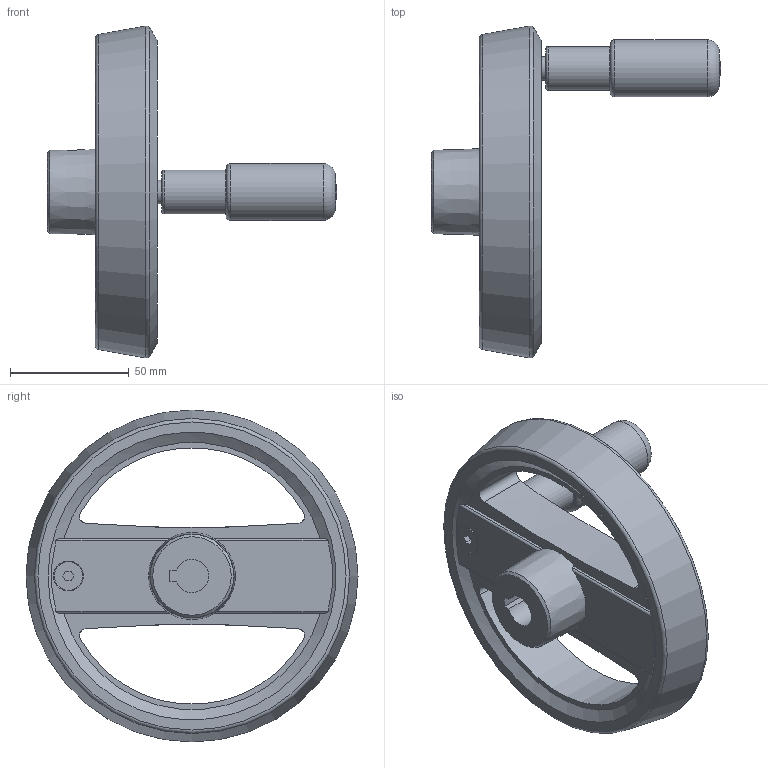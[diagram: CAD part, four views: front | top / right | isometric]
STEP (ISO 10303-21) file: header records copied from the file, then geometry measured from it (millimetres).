
FILE_DESCRIPTION( ( 'STEP AP203' ), '1' );
FILE_NAME( 'C:/Temp/Ganter_Step_05_03_2020/data/1_3/gn_924_3/gn_924_3_b/Handwheel with retractable handle GN 924.3-140-B14-R-SR (activated).stp', '2020-03-05T10:40:49', ( 'License CC BY-ND 4.0' ), ( 'CADENAS' ), ' ', 'PARTsolutions', ' ' );
FILE_SCHEMA( ( 'CONFIG_CONTROL_DESIGN' ) );
Length unit declared in the file: millimetre
Products named in the file (3): Handwheel with retractable handle GN 924.3-140-B14-R-SR (activated); _Umleggriff-Handrad GN 924.3-140-B14-R-SR-1; _Umleggriff-Handrad GN 924.3-140-B14-R-SR-2
Assembly tree (2 placements, depth 2):
  Handwheel with retractable handle GN 924.3-140-B14-R-SR (activated)
    _Umleggriff-Handrad GN 924.3-140-B14-R-SR-1
    _Umleggriff-Handrad GN 924.3-140-B14-R-SR-2
Bounding box: 121.7 x 139.68 x 139.68 mm (x, y, z)
Volume: 222709.6 mm3; surface area: 56390.9 mm2
Topology: 2 solids, 2 shells, 104 faces, 264 edges, 169 vertices
Faces by surface type: plane 49, cylinder 36, cone 10, torus 7, sphere 2
Full cylindrical faces by diameter (mm): 4 x4, 5 x1, 10 x1, 12 x1, 18.5 x1, 20 x1, 24 x1, 25 x1, 25.6 x1
Entity records: 3383 total; most frequent: CARTESIAN_POINT 930, DIRECTION 486, ORIENTED_EDGE 448, EDGE_CURVE 224, AXIS2_PLACEMENT_3D 193, VERTEX_POINT 162, EDGE_LOOP 147, FACE_OUTER_BOUND 123
